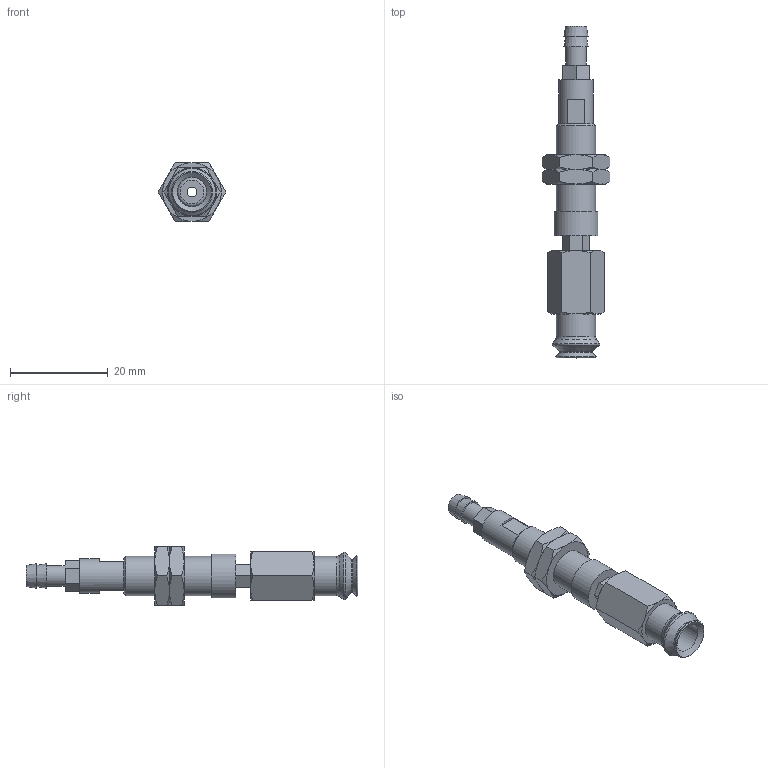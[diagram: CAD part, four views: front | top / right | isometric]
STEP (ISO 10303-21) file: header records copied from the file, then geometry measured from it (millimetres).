
FILE_DESCRIPTION(('STEP AP203'),'1');
FILE_NAME('-T.stp','2025-08-27T06:26:38',(' '),(' '),'Spatial InterOp 3D',' ',' ');
FILE_SCHEMA(('CONFIG_CONTROL_DESIGN'));
Length unit declared in the file: millimetre
Products named in the file (7): BNABPJTH-8-3-※-T; ADAPTER; NAPATH-10A-3--M; NAPJH-8-3-NUT; NAPJTH-8-3-FBODY; BPJG-8-※; T
Assembly tree (7 placements, depth 2):
  BNABPJTH-8-3-※-T
    ADAPTER
    NAPATH-10A-3--M
    NAPJH-8-3-NUT  x2
    NAPJTH-8-3-FBODY
    BPJG-8-※
    T
Bounding box: 13.86 x 68 x 12 mm (x, y, z)
Volume: 3513.5 mm3; surface area: 4376.6 mm2
Topology: 7 solids, 7 shells, 138 faces, 295 edges, 180 vertices
Faces by surface type: plane 63, cone 50, cylinder 16, torus 9
Full cylindrical faces by diameter (mm): 2 x2, 3 x1, 4 x2, 4.134 x1, 4.3 x1, 5 x1, 6 x2, 7 x1, 7.188 x2, 8 x2, 9 x1
Entity records: 3402 total; most frequent: CARTESIAN_POINT 759, DIRECTION 480, ORIENTED_EDGE 406, EDGE_CURVE 203, AXIS2_PLACEMENT_3D 202, EDGE_LOOP 172, VERTEX_POINT 145, FACE_OUTER_BOUND 139
